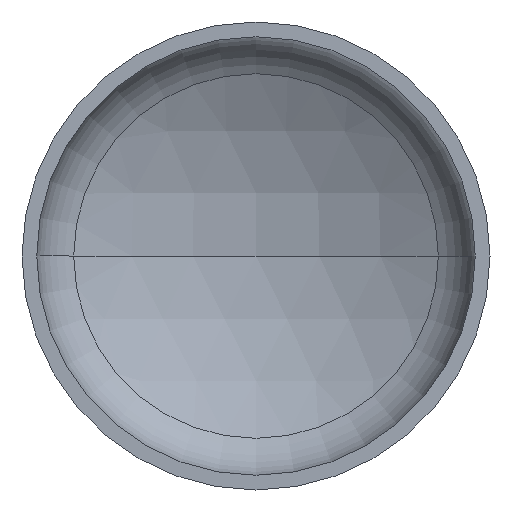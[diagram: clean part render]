
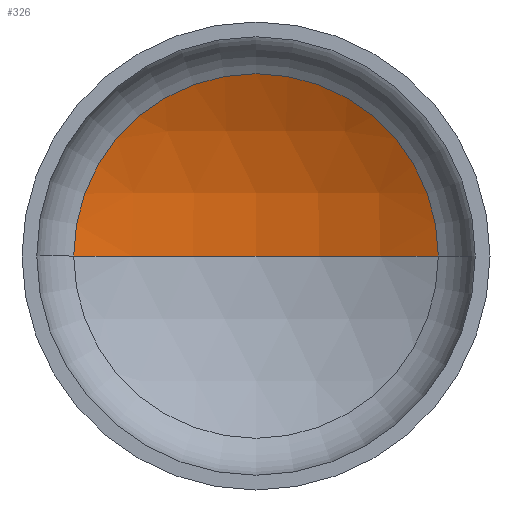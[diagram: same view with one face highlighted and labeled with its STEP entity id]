
A CAD part, front view. The second image highlights one B-rep face of the part: STEP entity #326.
In plain terms, the highlighted spherical face has radius 1040 mm.
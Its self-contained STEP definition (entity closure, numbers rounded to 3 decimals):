
#4 = AXIS2_PLACEMENT_3D ( 'NONE', #227, #49, #256 ) ;
#11 = AXIS2_PLACEMENT_3D ( 'NONE', #367, #93, #343 ) ;
#16 = AXIS2_PLACEMENT_3D ( 'NONE', #396, #221, #37 ) ;
#37 = DIRECTION ( 'NONE',  ( 1., 0., 0. ) ) ;
#43 = VERTEX_POINT ( 'NONE', #235 ) ;
#49 = DIRECTION ( 'NONE',  ( 0., 0., 1. ) ) ;
#76 = ORIENTED_EDGE ( 'NONE', *, *, #312, .T. ) ;
#80 = CIRCLE ( 'NONE', #324, 1040. ) ;
#88 = SPHERICAL_SURFACE ( 'NONE', #11, 1040. ) ;
#93 = DIRECTION ( 'NONE',  ( 0., 0., -1. ) ) ;
#140 = CIRCLE ( 'NONE', #4, 1040. ) ;
#149 = DIRECTION ( 'NONE',  ( 0., 0., -1. ) ) ;
#204 = CARTESIAN_POINT ( 'NONE',  ( -506.381, 304.691, 0. ) ) ;
#207 = ORIENTED_EDGE ( 'NONE', *, *, #375, .F. ) ;
#221 = DIRECTION ( 'NONE',  ( 0., -1., 0. ) ) ;
#222 = ORIENTED_EDGE ( 'NONE', *, *, #381, .T. ) ;
#227 = CARTESIAN_POINT ( 'NONE',  ( 0., -603.702, 0. ) ) ;
#230 = CIRCLE ( 'NONE', #16, 506.381 ) ;
#235 = CARTESIAN_POINT ( 'NONE',  ( 506.381, 304.691, 0. ) ) ;
#247 = CARTESIAN_POINT ( 'NONE',  ( 0., 436.298, 0. ) ) ;
#254 = VERTEX_POINT ( 'NONE', #204 ) ;
#256 = DIRECTION ( 'NONE',  ( 1., 0., 0. ) ) ;
#268 = VERTEX_POINT ( 'NONE', #247 ) ;
#312 = EDGE_CURVE ( 'NONE', #43, #254, #230, .T. ) ;
#323 = CARTESIAN_POINT ( 'NONE',  ( 0., -603.702, 0. ) ) ;
#324 = AXIS2_PLACEMENT_3D ( 'NONE', #323, #149, #347 ) ;
#326 = ADVANCED_FACE ( 'NONE', ( #377 ), #88, .F. ) ;
#343 = DIRECTION ( 'NONE',  ( -1., 0., 0. ) ) ;
#347 = DIRECTION ( 'NONE',  ( -1., 0., 0. ) ) ;
#367 = CARTESIAN_POINT ( 'NONE',  ( 0., -603.702, 0. ) ) ;
#375 = EDGE_CURVE ( 'NONE', #268, #254, #140, .T. ) ;
#377 = FACE_OUTER_BOUND ( 'NONE', #388, .T. ) ;
#381 = EDGE_CURVE ( 'NONE', #268, #43, #80, .T. ) ;
#388 = EDGE_LOOP ( 'NONE', ( #207, #222, #76 ) ) ;
#396 = CARTESIAN_POINT ( 'NONE',  ( 0., 304.691, 0. ) ) ;
